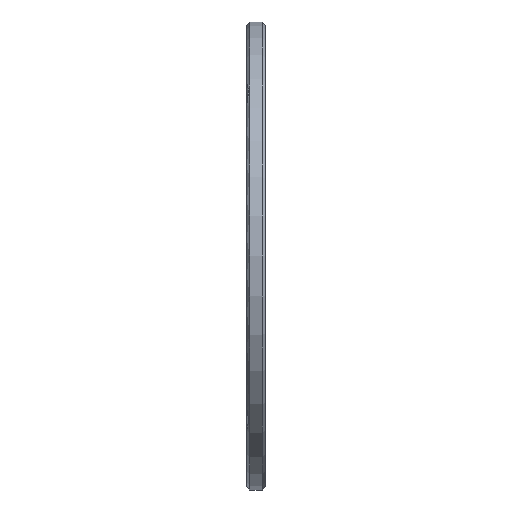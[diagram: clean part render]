
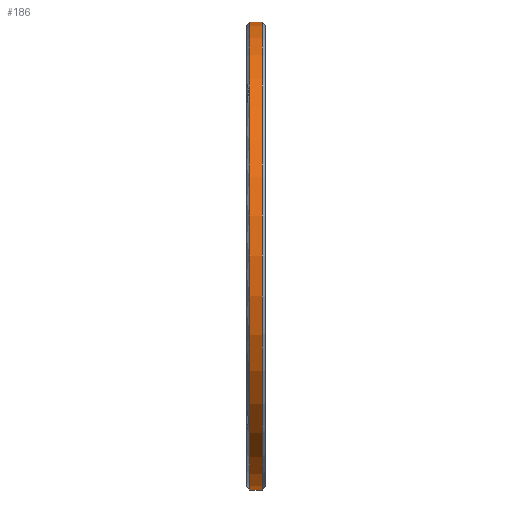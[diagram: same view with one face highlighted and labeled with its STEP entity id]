
A CAD part, left-side view. The second image highlights one B-rep face of the part: STEP entity #186.
In plain terms, the highlighted cylindrical face has radius 37.5 mm (diameter 75 mm), a partial arc.
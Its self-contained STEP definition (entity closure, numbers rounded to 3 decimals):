
#17 = VERTEX_POINT ( 'NONE', #2510 ) ;
#74 = VERTEX_POINT ( 'NONE', #622 ) ;
#97 = AXIS2_PLACEMENT_3D ( 'NONE', #1792, #2209, #1761 ) ;
#127 = DIRECTION ( 'NONE',  ( 0., -1., 0. ) ) ;
#165 = LINE ( 'NONE', #1900, #2308 ) ;
#186 = ADVANCED_FACE ( 'NONE', ( #1001 ), #2586, .T. ) ;
#392 = VERTEX_POINT ( 'NONE', #2657 ) ;
#622 = CARTESIAN_POINT ( 'NONE',  ( 11.73, 2.5, -35.618 ) ) ;
#641 = VECTOR ( 'NONE', #2518, 1000. ) ;
#734 = DIRECTION ( 'NONE',  ( 0., 0., 1. ) ) ;
#829 = ORIENTED_EDGE ( 'NONE', *, *, #1278, .T. ) ;
#913 = EDGE_LOOP ( 'NONE', ( #2377, #829, #1447, #1533 ) ) ;
#1001 = FACE_OUTER_BOUND ( 'NONE', #913, .T. ) ;
#1087 = DIRECTION ( 'NONE',  ( 0., -1., 0. ) ) ;
#1166 = CARTESIAN_POINT ( 'NONE',  ( 0., 0.5, 0. ) ) ;
#1278 = EDGE_CURVE ( 'NONE', #17, #1922, #1435, .T. ) ;
#1435 = LINE ( 'NONE', #2536, #641 ) ;
#1447 = ORIENTED_EDGE ( 'NONE', *, *, #1849, .F. ) ;
#1533 = ORIENTED_EDGE ( 'NONE', *, *, #2271, .T. ) ;
#1562 = CIRCLE ( 'NONE', #2607, 37.5 ) ;
#1761 = DIRECTION ( 'NONE',  ( 0., 0., -1. ) ) ;
#1770 = CARTESIAN_POINT ( 'NONE',  ( 0., 3., 0. ) ) ;
#1792 = CARTESIAN_POINT ( 'NONE',  ( 0., 2.5, 0. ) ) ;
#1793 = DIRECTION ( 'NONE',  ( 0., 0., -1. ) ) ;
#1849 = EDGE_CURVE ( 'NONE', #74, #1922, #2102, .T. ) ;
#1900 = CARTESIAN_POINT ( 'NONE',  ( 11.73, 3., -35.618 ) ) ;
#1922 = VERTEX_POINT ( 'NONE', #2617 ) ;
#1983 = AXIS2_PLACEMENT_3D ( 'NONE', #1770, #1990, #1793 ) ;
#1990 = DIRECTION ( 'NONE',  ( 0., -1., 0. ) ) ;
#2102 = CIRCLE ( 'NONE', #97, 37.5 ) ;
#2209 = DIRECTION ( 'NONE',  ( 0., 1., 0. ) ) ;
#2271 = EDGE_CURVE ( 'NONE', #74, #392, #165, .T. ) ;
#2308 = VECTOR ( 'NONE', #1087, 1000. ) ;
#2377 = ORIENTED_EDGE ( 'NONE', *, *, #2639, .F. ) ;
#2510 = CARTESIAN_POINT ( 'NONE',  ( 11.73, 0.5, 35.618 ) ) ;
#2518 = DIRECTION ( 'NONE',  ( 0., 1., 0. ) ) ;
#2536 = CARTESIAN_POINT ( 'NONE',  ( 11.73, 3., 35.618 ) ) ;
#2586 = CYLINDRICAL_SURFACE ( 'NONE', #1983, 37.5 ) ;
#2607 = AXIS2_PLACEMENT_3D ( 'NONE', #1166, #127, #734 ) ;
#2617 = CARTESIAN_POINT ( 'NONE',  ( 11.73, 2.5, 35.618 ) ) ;
#2639 = EDGE_CURVE ( 'NONE', #17, #392, #1562, .T. ) ;
#2657 = CARTESIAN_POINT ( 'NONE',  ( 11.73, 0.5, -35.618 ) ) ;
